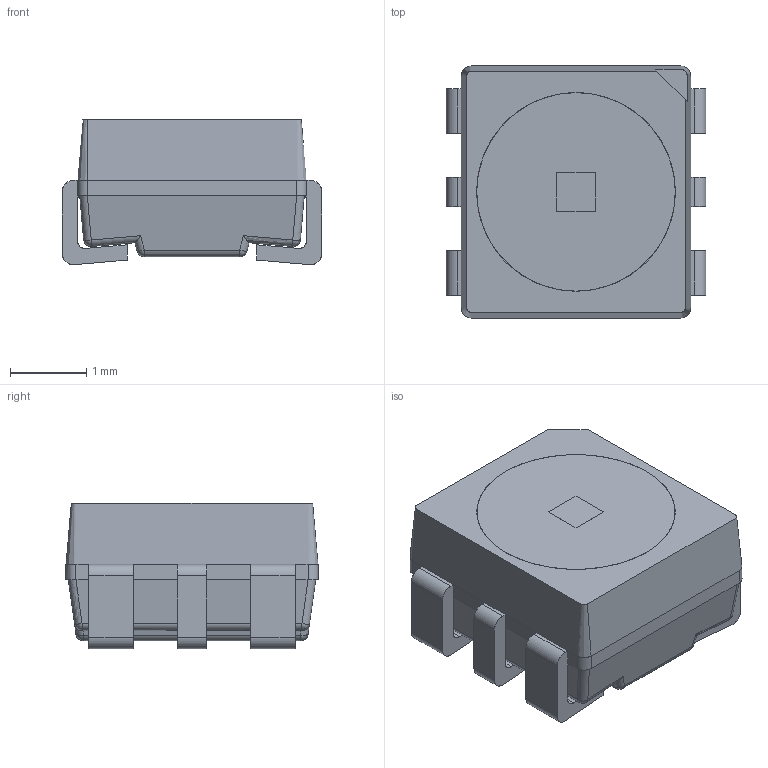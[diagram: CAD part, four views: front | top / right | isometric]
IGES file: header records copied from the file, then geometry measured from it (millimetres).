
Start section: SolidWorks IGES file using analytic representation for surfaces
Global section: file name: C:\Users\user\Desktop\XYY\1-车灯产品3D图汇总\3433\LYC-OK\光学模型\LYC.IGS; native system: SolidWorks 2022; preprocessor: SolidWorks 2022; author: user; date: 250323.153517; units: millimetre
Bounding box: 3.4 x 3.3 x 1.9 mm (x, y, z)
Surface area: 53.6 mm2 (no closed solid volume)
Topology: 0 solids, 0 shells, 145 faces, 1550 edges, 1925 vertices
Faces by surface type: bspline 85, revolution 60
